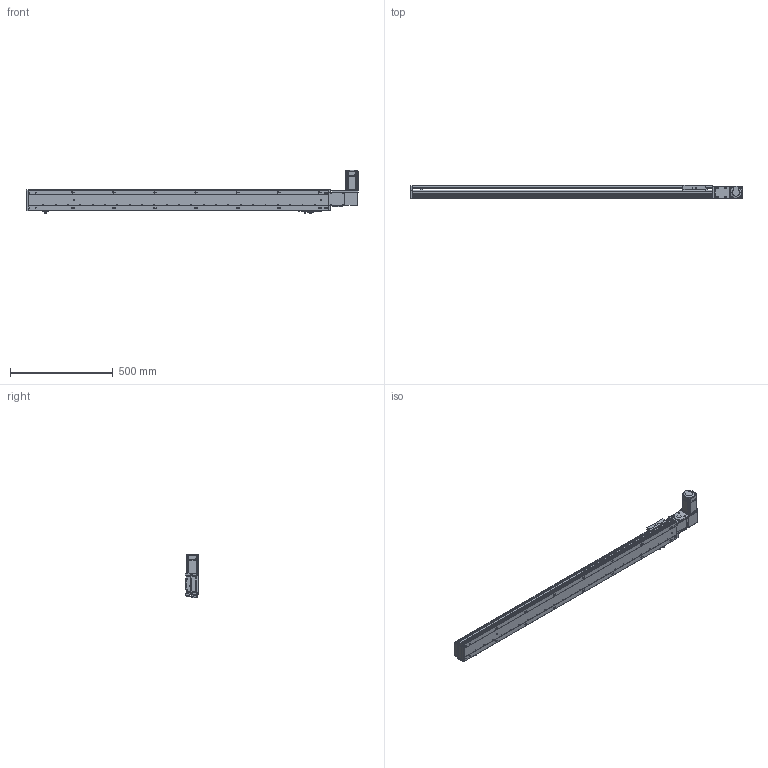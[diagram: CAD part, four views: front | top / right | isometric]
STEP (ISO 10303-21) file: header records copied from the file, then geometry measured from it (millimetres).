
FILE_DESCRIPTION (( 'STEP AP203' ), '1' );
FILE_NAME ('RY100-T-300-RK.SLDASM_1250.step', '2024-04-25T08:22:56', ( '盈信电脑' ), ( '东莞市道滘镇水果街19号' ), 'SwSTEP 2.0', 'SolidWorks 2016', '' );
FILE_SCHEMA (( 'CONFIG_CONTROL_DESIGN' ));
Length unit declared in the file: millimetre
Products named in the file (15): RY100-T肮祭謫臏賑輸; RY100-T翋肮祭謫裔啣2; 覜茼ん672; RY100綴裔啣; 滅袉蝶18-10; RY100俋离覜茼え; RY100-T-300-RK倰第奻裔_1250; RY80-T肮祭謫俋欶; RY100-T-300-RK倰第菁釱_1250; RY100-T粣創揤踡裔; RY100-T-300-RK.SLDASM_1250; RY100-T左右折电机安装板; RY100-T肮祭謫翋盓傅釱; 侂狟200W萇儂; 1
Assembly tree (18 placements, depth 3):
  RY100-T-300-RK.SLDASM_1250
    RY100-T-300-RK倰第菁釱_1250
    RY100-T-300-RK倰第奻裔_1250
    RY100-T肮祭謫臏賑輸
    RY100綴裔啣
    覜茼ん672  x3
    RY100俋离覜茼え
    RY100-T肮祭謫翋盓傅釱
    RY100-T左右折电机安装板
    侂狟200W萇儂
      1
    RY100-T粣創揤踡裔
    滅袉蝶18-10  x2
    RY100-T翋肮祭謫裔啣2  x2
    RY80-T肮祭謫俋欶
Bounding box: 1614 x 66 x 209.7 mm (x, y, z)
Volume: 3026564.4 mm3; surface area: 1255440.4 mm2
Topology: 17 solids, 17 shells, 2191 faces, 6099 edges, 3965 vertices
Faces by surface type: plane 1189, cylinder 793, cone 131, bspline 78
Entity records: 70053 total; most frequent: CARTESIAN_POINT 16883, ORIENTED_EDGE 10934, DIRECTION 10415, EDGE_CURVE 5467, VERTEX_POINT 3601, VECTOR 3535, LINE 3535, AXIS2_PLACEMENT_3D 3440
